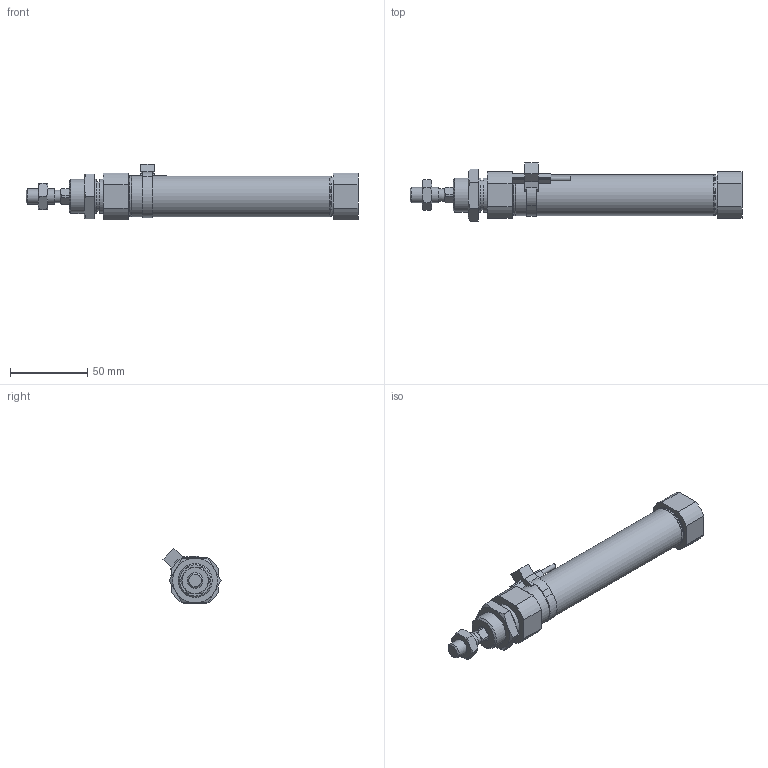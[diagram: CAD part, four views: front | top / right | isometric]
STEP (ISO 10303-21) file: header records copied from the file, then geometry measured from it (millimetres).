
FILE_DESCRIPTION( ( 'STEP AP214' ), '1' );
FILE_NAME( 'p:/temp/worker_363/temp/exporttempdir_6936_416_EtuMX/format_0/MI25x100SU(0)+(CMSG-1).stp', '2020-04-09T12:18:29', ( 'License CC BY-ND 4.0' ), ( 'CADENAS' ), ' ', 'PARTsolutions', ' ' );
FILE_SCHEMA( ( 'AUTOMOTIVE_DESIGN { 1 0 10303 214 1 1 1 1 }' ) );
Length unit declared in the file: millimetre
Products named in the file (6): MI25x100SU(0)+(CMSG-1); _MI 25x100-S-U_c; _MI 25x100-S-U_r; _MI25-M10x1.5 - Nut; _MI25-M22x1.5 - Nut; _CS1-M-S25-P
Assembly tree (5 placements, depth 2):
  MI25x100SU(0)+(CMSG-1)
    _MI 25x100-S-U_c
    _MI 25x100-S-U_r
    _MI25-M10x1.5 - Nut
    _MI25-M22x1.5 - Nut
    _CS1-M-S25-P
Bounding box: 214.5 x 37.53 x 35.79 mm (x, y, z)
Volume: 73892.5 mm3; surface area: 42837.5 mm2
Topology: 5 solids, 5 shells, 157 faces, 362 edges, 228 vertices
Faces by surface type: plane 85, cylinder 36, cone 34, torus 2
Full cylindrical faces by diameter (mm): 3 x1, 8 x1, 8.376 x1, 8.566 x2, 10 x3, 19.25 x1, 20.376 x1, 22 x2, 24.5 x2, 26.4 x3, 28 x1
Entity records: 5794 total; most frequent: CARTESIAN_POINT 991, DIRECTION 724, ORIENTED_EDGE 656, EDGE_CURVE 328, AXIS2_PLACEMENT_3D 277, VERTEX_POINT 228, EDGE_LOOP 208, FACE_OUTER_BOUND 177
